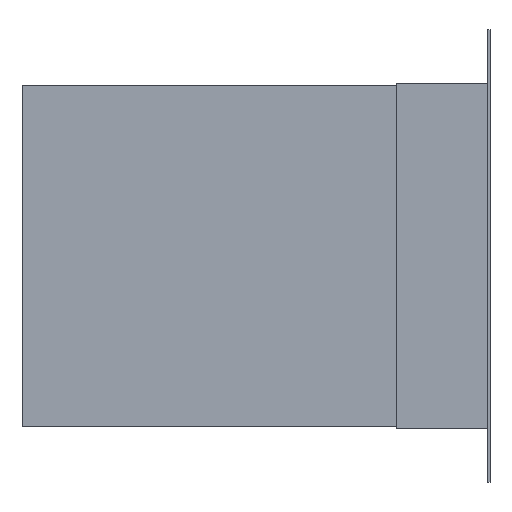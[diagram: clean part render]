
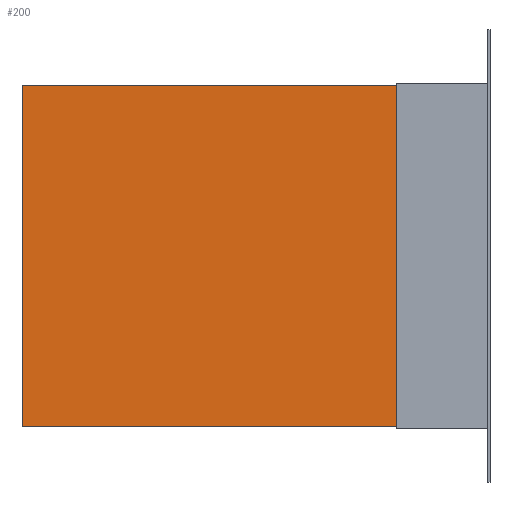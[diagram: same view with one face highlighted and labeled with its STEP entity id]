
A CAD part, left-side view. The second image highlights one B-rep face of the part: STEP entity #200.
In plain terms, the highlighted planar face has unit normal (-1, 0, 0).
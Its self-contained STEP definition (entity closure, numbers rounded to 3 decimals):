
#200=ADVANCED_FACE('',(#418),#419,.F.);
#418=FACE_OUTER_BOUND('',#633,.T.);
#419=PLANE('',#634);
#633=EDGE_LOOP('',(#1189,#1190,#1191,#1192));
#634=AXIS2_PLACEMENT_3D('',#1193,#1194,#1195);
#1189=ORIENTED_EDGE('',*,*,#1308,.T.);
#1190=ORIENTED_EDGE('',*,*,#1397,.F.);
#1191=ORIENTED_EDGE('',*,*,#1446,.T.);
#1192=ORIENTED_EDGE('',*,*,#1443,.F.);
#1193=CARTESIAN_POINT('',(-272.5,375.5,0.0));
#1194=DIRECTION('',(1.0,0.0,0.0));
#1195=DIRECTION('',(0.0,0.0,-1.0));
#1308=EDGE_CURVE('',#1598,#1602,#1604,.T.);
#1397=EDGE_CURVE('',#1724,#1602,#1726,.T.);
#1443=EDGE_CURVE('',#1598,#1782,#1783,.T.);
#1446=EDGE_CURVE('',#1724,#1782,#1786,.T.);
#1598=VERTEX_POINT('',#1978);
#1602=VERTEX_POINT('',#1984);
#1604=LINE('',#1987,#1988);
#1724=VERTEX_POINT('',#2158);
#1726=LINE('',#2161,#2162);
#1782=VERTEX_POINT('',#2239);
#1783=LINE('',#2240,#2241);
#1786=LINE('',#2245,#2246);
#1978=CARTESIAN_POINT('',(-272.5,150.0,-272.5));
#1984=CARTESIAN_POINT('',(-272.5,150.0,272.5));
#1987=CARTESIAN_POINT('',(-272.5,150.0,0.0));
#1988=VECTOR('',#2375,1.0);
#2158=CARTESIAN_POINT('',(-272.5,750.0,272.5));
#2161=CARTESIAN_POINT('',(-272.5,375.5,272.5));
#2162=VECTOR('',#2463,1.0);
#2239=CARTESIAN_POINT('',(-272.5,750.0,-272.5));
#2240=CARTESIAN_POINT('',(-272.5,375.5,-272.5));
#2241=VECTOR('',#2509,1.0);
#2245=CARTESIAN_POINT('',(-272.5,750.0,0.0));
#2246=VECTOR('',#2511,1.0);
#2375=DIRECTION('',(-0.0,0.0,1.0));
#2463=DIRECTION('',(0.0,-1.0,0.0));
#2509=DIRECTION('',(0.0,1.0,0.0));
#2511=DIRECTION('',(0.0,0.0,-1.0));
